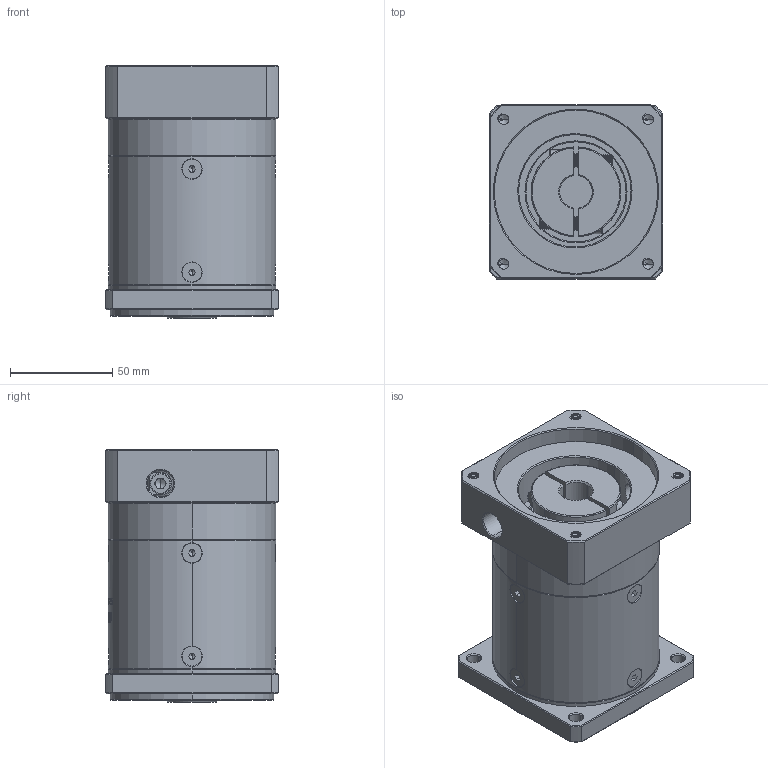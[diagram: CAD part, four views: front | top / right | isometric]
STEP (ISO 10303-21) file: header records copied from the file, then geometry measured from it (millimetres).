
FILE_DESCRIPTION (( 'STEP AP214' ), '1' );
FILE_NAME ('ZF80-K15-L2-16-80-100-M6.step', '2022-09-16T05:24:53', ( '' ), ( 'Microsoft' ), 'SwSTEP 2.0', 'SolidWorks 2016', '' );
FILE_SCHEMA (( 'AUTOMOTIVE_DESIGN' ));
Length unit declared in the file: millimetre
Products named in the file (1): ZF80-K15-L2-16-80-100-M6
Bounding box: 85 x 85 x 123.5 mm (x, y, z)
Volume: 622413 mm3; surface area: 92459 mm2
Topology: 13 solids, 13 shells, 1929 faces, 4997 edges, 3161 vertices
Faces by surface type: plane 889, cylinder 381, cone 332, bspline 310, torus 17
Entity records: 101530 total; most frequent: CARTESIAN_POINT 36631, ORIENTED_EDGE 9938, DIRECTION 7874, EDGE_CURVE 4969, VERTEX_POINT 3161, LINE 2716, VECTOR 2716, AXIS2_PLACEMENT_3D 2579
